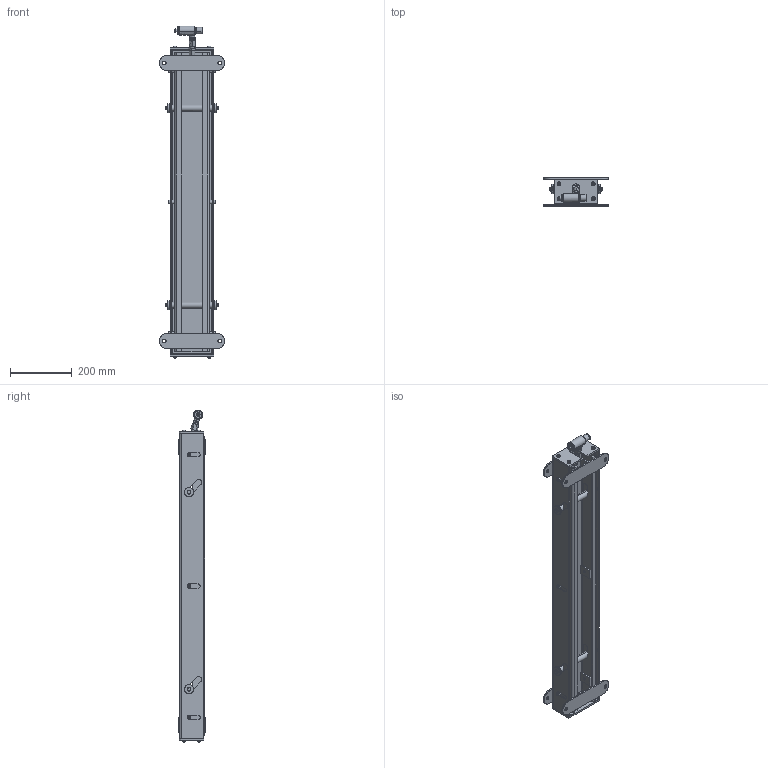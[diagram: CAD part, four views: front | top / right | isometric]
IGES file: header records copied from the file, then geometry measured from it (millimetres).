
Start section: 3D InterOp IGES (Version 21 0 2), Spatial Corp. Copyright (c) 1999-2007.
Global section: file name: ALB-TBL-1000N_L.igs; native system: Spatial Corp.; preprocessor: 3D InterOp GENERIC/IGES 3.0; author: Noname; organization: Noname; date: 20130325.141456; units: millimetre
Bounding box: 210 x 90 x 1074.77 mm (x, y, z)
Surface area: 1306783.5 mm2 (no closed solid volume)
Topology: 0 solids, 0 shells, 908 faces, 5528 edges, 5496 vertices
Faces by surface type: bspline 908
